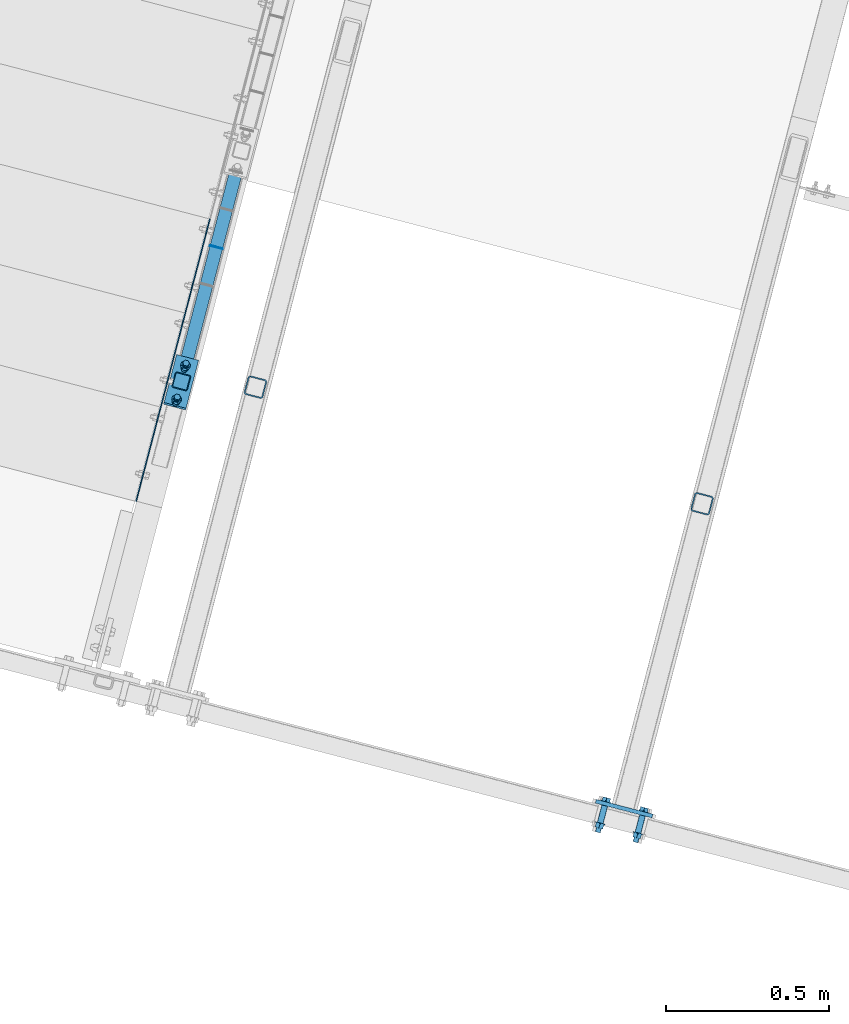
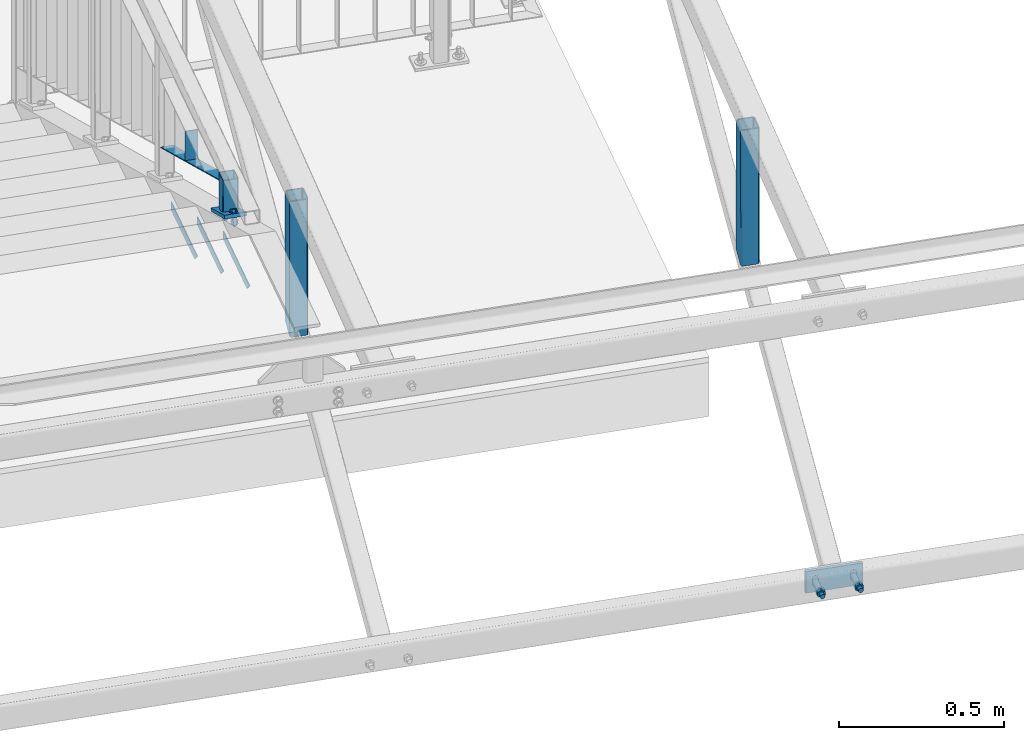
# One storey, part 89 of 169: 10 discrete accessories, 2 mechanical fasteners, 6 elements without a shape of their own.
"""IFC2X3 building model written with IfcOpenShell, lengths in millimetres."""

import ifcopenshell
import ifcopenshell.guid

model = None  # the IFC model being written
_history = None  # IfcOwnerHistory: only IFC2X3 demands one
_inside = {}  # id of a spatial element -> (the spatial element, [elements in it])
_under = {}  # id of a project, library or spatial element -> (it, [spatial elements below it])
_declared = {}  # id of a project -> (the project, [libraries it declares])
_typed = {}  # id of a type object -> (the type object, [elements of that type])
_made_of = {}  # id of a material, layer set ... -> (it, [elements and type objects made of it])


def new_model(schema):
    """Start an empty IFC model of exactly this schema.

    Asked for "IFC4X3", IfcOpenShell would pick the latest addendum, in which some entities
    have other attributes; the version numbers below select the first issue.
    IFC2X3 requires an IfcOwnerHistory on every rooted entity: one is made here for all.
    """
    global model, _history
    if schema == "IFC4X3":
        model = ifcopenshell.file(schema_version=(4, 3, 0, 0))
    else:
        model = ifcopenshell.file(schema=schema)
    _inside.clear()
    _under.clear()
    _declared.clear()
    _typed.clear()
    _made_of.clear()
    _history = None
    if model.schema == "IFC2X3":
        org = make("IfcOrganization", Name="unknown")
        user = make(
            "IfcPersonAndOrganization",
            ThePerson=make("IfcPerson", FamilyName="unknown"),
            TheOrganization=org,
        )
        app = make(
            "IfcApplication",
            ApplicationDeveloper=org,
            Version="unknown",
            ApplicationFullName="unknown",
            ApplicationIdentifier="unknown",
        )
        _history = make(
            "IfcOwnerHistory",
            OwningUser=user,
            OwningApplication=app,
            ChangeAction="ADDED",
            CreationDate=0,
        )
    return model


def make(cls, **values):
    """One entity of the class cls with the attributes given. An attribute that is None is left unset."""
    return model.create_entity(
        cls, **{name: value for name, value in values.items() if value is not None}
    )


def rooted(cls, **values):
    """An entity with a GlobalId (a new one), such as an element, a storey or a relation."""
    return make(cls, GlobalId=ifcopenshell.guid.new(), OwnerHistory=_history, **values)


def si_unit(unit_type, name, prefix=None):
    """IfcSIUnit, for example si_unit("LENGTHUNIT", "METRE", prefix="MILLI")."""
    return make("IfcSIUnit", UnitType=unit_type, Prefix=prefix, Name=name)


def assignment(units):
    """IfcUnitAssignment: the units of a project."""
    return None if units is None else make("IfcUnitAssignment", Units=units)


def point(xyz):
    """IfcCartesianPoint."""
    return None if xyz is None else make("IfcCartesianPoint", Coordinates=xyz)


def direction(xyz):
    """IfcDirection."""
    return None if xyz is None else make("IfcDirection", DirectionRatios=xyz)


def frame(location, z_axis=None, x_axis=None):
    """IfcAxis2Placement3D, a coordinate frame: its origin and axes. An axis left out is left unset."""
    return make(
        "IfcAxis2Placement3D",
        Location=point(location),
        Axis=direction(z_axis),
        RefDirection=direction(x_axis),
    )


def frame_2d(location, x_axis=None):
    """IfcAxis2Placement2D, a coordinate frame in the plane: its origin and x axis."""
    return make(
        "IfcAxis2Placement2D", Location=point(location), RefDirection=direction(x_axis)
    )


def origin_with_axes():
    """The frame at (0, 0, 0) with the z axis (0, 0, 1) and the x axis (1, 0, 0) written out."""
    return frame((0.0, 0.0, 0.0), z_axis=(0.0, 0.0, 1.0), x_axis=(1.0, 0.0, 0.0))


def origin_2d_with_axis():
    """The frame at (0, 0) in the plane with the x axis (1, 0) written out."""
    return frame_2d((0.0, 0.0), x_axis=(1.0, 0.0))


def place(relative_to, where):
    """IfcLocalPlacement: puts the frame where relative to a parent placement (None: the world)."""
    return make(
        "IfcLocalPlacement", PlacementRelTo=relative_to, RelativePlacement=where
    )


def context(
    kind, dimensions, precision=None, world=None, true_north=None, identifier=None
):
    """IfcGeometricRepresentationContext, for example the 3D "Model" context."""
    return make(
        "IfcGeometricRepresentationContext",
        ContextIdentifier=identifier,
        ContextType=kind,
        CoordinateSpaceDimension=dimensions,
        Precision=precision,
        WorldCoordinateSystem=world,
        TrueNorth=true_north,
    )


def subcontext(parent, identifier, kind, view, scale=None):
    """IfcGeometricRepresentationSubContext, for example "Body" below "Model"."""
    return make(
        "IfcGeometricRepresentationSubContext",
        ContextIdentifier=identifier,
        ContextType=kind,
        ParentContext=parent,
        TargetScale=scale,
        TargetView=view,
    )


def project(units=None, contexts=None):
    """IfcProject with its units and contexts."""
    return rooted(
        "IfcProject",
        Name="project",
        RepresentationContexts=contexts,
        UnitsInContext=assignment(units),
    )


def spatial(cls, under=None, at=None, **own):
    """A site, building, storey or space (cls), placed at a placement, below another one or the project."""
    s = rooted(cls, ObjectPlacement=at, **own)
    if under is not None:
        _under.setdefault(under.id(), (under, []))[1].append(s)
    return s


def polyline(points):
    """IfcPolyline through the points."""
    return make("IfcPolyline", Points=[point(p) for p in points])


def circle_curve(where, radius):
    """IfcCircle in the frame where."""
    return make("IfcCircle", Position=where, Radius=radius)


def parameter(value):
    """IfcParameterValue: where a trimmed curve begins or ends, as a parameter of its basis curve."""
    return model.create_entity("IfcParameterValue", value)


def trimmed(basis, trim1, trim2, sense, master):
    """IfcTrimmedCurve: the piece of a basis curve between two trims."""
    return make(
        "IfcTrimmedCurve",
        BasisCurve=basis,
        Trim1=trim1,
        Trim2=trim2,
        SenseAgreement=sense,
        MasterRepresentation=master,
    )


def segment(curve, same_sense, transition):
    """IfcCompositeCurveSegment."""
    return make(
        "IfcCompositeCurveSegment",
        Transition=transition,
        SameSense=same_sense,
        ParentCurve=curve,
    )


def composite_curve(segments, self_intersect=None):
    """IfcCompositeCurve: segments joined end to end."""
    return make("IfcCompositeCurve", Segments=segments, SelfIntersect=self_intersect)


def profile(cls, at=None, kind="AREA", **sizes):
    """A parametric profile (cls). Its sizes go by their IFC names, for example OverallWidth=200.0."""
    return make(cls, ProfileType=kind, Position=at, **sizes)


def rectangle(**sizes):
    """IfcRectangleProfileDef."""
    return profile("IfcRectangleProfileDef", **sizes)


def hollow_rectangle(**sizes):
    """IfcRectangleHollowProfileDef."""
    return profile("IfcRectangleHollowProfileDef", **sizes)


def circle(**sizes):
    """IfcCircleProfileDef."""
    return profile("IfcCircleProfileDef", **sizes)


def outline(outer, holes=None, kind="AREA"):
    """IfcArbitraryClosedProfileDef: a profile drawn as a closed curve; with holes, ...WithVoids."""
    if holes is None:
        return make("IfcArbitraryClosedProfileDef", ProfileType=kind, OuterCurve=outer)
    return make(
        "IfcArbitraryProfileDefWithVoids",
        ProfileType=kind,
        OuterCurve=outer,
        InnerCurves=holes,
    )


def extrude(swept, where, along, depth):
    """IfcExtrudedAreaSolid: the profile swept, set in the frame where, extruded along a direction by depth."""
    return make(
        "IfcExtrudedAreaSolid",
        SweptArea=swept,
        Position=where,
        ExtrudedDirection=direction(along),
        Depth=depth,
    )


def boolean(op, a, b):
    """IfcBooleanResult of two solids."""
    return make("IfcBooleanResult", Operator=op, FirstOperand=a, SecondOperand=b)


def clip(a, b, op="DIFFERENCE"):
    """IfcBooleanClippingResult: the solid a cut by the half space b."""
    return make(
        "IfcBooleanClippingResult", Operator=op, FirstOperand=a, SecondOperand=b
    )


def halfspace(plane, agree):
    """IfcHalfSpaceSolid: all space on one side of the plane z = 0 of the frame plane."""
    return make(
        "IfcHalfSpaceSolid",
        BaseSurface=make("IfcPlane", Position=plane),
        AgreementFlag=agree,
    )


def shape(context_of_items, identifier, shape_type, items):
    """IfcShapeRepresentation: the items that make up one representation, for example the "Body"."""
    return make(
        "IfcShapeRepresentation",
        ContextOfItems=context_of_items,
        RepresentationIdentifier=identifier,
        RepresentationType=shape_type,
        Items=items,
    )


def source(mapping_origin, context_of_items, identifier, shape_type, items):
    """IfcRepresentationMap: a shape defined once, which mapped items show again and again."""
    return make(
        "IfcRepresentationMap",
        MappingOrigin=mapping_origin,
        MappedRepresentation=shape(context_of_items, identifier, shape_type, items),
    )


def transform(
    local_origin,
    x_axis=None,
    y_axis=None,
    z_axis=None,
    scale=None,
    scale2=None,
    scale3=None,
    uniform=True,
):
    """IfcCartesianTransformationOperator3D, or its non-uniform kind. x_axis, y_axis, z_axis: its Axis1, 2, 3."""
    if uniform:
        return make(
            "IfcCartesianTransformationOperator3D",
            Axis1=direction(x_axis),
            Axis2=direction(y_axis),
            LocalOrigin=point(local_origin),
            Scale=scale,
            Axis3=direction(z_axis),
        )
    return make(
        "IfcCartesianTransformationOperator3DnonUniform",
        Axis1=direction(x_axis),
        Axis2=direction(y_axis),
        LocalOrigin=point(local_origin),
        Scale=scale,
        Axis3=direction(z_axis),
        Scale2=scale2,
        Scale3=scale3,
    )


def mapped(mapping_source, mapping_target):
    """IfcMappedItem: shows the shape of a source again, moved by a transform."""
    return make(
        "IfcMappedItem", MappingSource=mapping_source, MappingTarget=mapping_target
    )


def material(Name=None, Category=None):
    """IfcMaterial."""
    return make("IfcMaterial", Name=Name, Category=Category)


def made_of(thing, what):
    """Note that an element or type object is made of a material, layer set ...; save() writes the relation."""
    if what is not None:
        _made_of.setdefault(what.id(), (what, []))[1].append(thing)
    return thing


def type_object(cls, material=None, **own):
    """A type object (cls), such as IfcWallType, which elements share."""
    return made_of(rooted(cls, **own), material)


def element(
    cls,
    number,
    at=None,
    inside=None,
    cuts=None,
    type_object=None,
    material=None,
    context=None,
    identifier="Body",
    shape_type=None,
    held_by="IfcProductDefinitionShape",
    body=None,
    shapes=None,
    **own,
):
    """One element of the class cls, such as IfcWall. Its Tag is "e" and its number.

    at: its placement. inside: the storey or other place that contains it. cuts: it is an
    opening in that element (IfcRelVoidsElement). A single representation is given by context,
    identifier, shape_type and body (its items); several are given by shapes. held_by: the class
    of the entity that holds the representations. save() writes the other relations.
    """
    e = rooted(cls, Tag="e%d" % number, ObjectPlacement=at, **own)
    if body is not None:
        shapes = [shape(context, identifier, shape_type, body)]
    if shapes is not None:
        e.Representation = make(held_by, Representations=shapes)
    if inside is not None:
        _inside.setdefault(inside.id(), (inside, []))[1].append(e)
    if cuts is not None:
        rooted(
            "IfcRelVoidsElement", RelatingBuildingElement=cuts, RelatedOpeningElement=e
        )
    if type_object is not None:
        _typed.setdefault(type_object.id(), (type_object, []))[1].append(e)
    return made_of(e, material)


def aggregate(whole, parts):
    """IfcRelAggregates: a whole, such as a stair, and the parts it consists of."""
    return rooted("IfcRelAggregates", RelatingObject=whole, RelatedObjects=parts)


def save(model, path):
    """Write the relations noted so far, then the file.

    IfcRelAggregates (storeys below a building ...), IfcRelContainedInSpatialStructure (elements
    in a storey), IfcRelDefinesByType, IfcRelAssociatesMaterial and IfcRelDeclares: one each for
    every whole, place, type object, material and project.
    """
    for whole, parts in _under.values():
        aggregate(whole, parts)
    for where, things in _inside.values():
        rooted(
            "IfcRelContainedInSpatialStructure",
            RelatedElements=things,
            RelatingStructure=where,
        )
    for kind, things in _typed.values():
        rooted("IfcRelDefinesByType", RelatedObjects=things, RelatingType=kind)
    for what, things in _made_of.values():
        rooted("IfcRelAssociatesMaterial", RelatedObjects=things, RelatingMaterial=what)
    for by, libraries in _declared.values():
        rooted("IfcRelDeclares", RelatingContext=by, RelatedDefinitions=libraries)
    model.write(path)


model = new_model("IFC2X3")

# Units and contexts
model_context = context("Model", 3, precision=1e-05, world=origin_with_axes())
body_context = subcontext(model_context, "Body", "Model", "MODEL_VIEW")
ifc_project = project(units=[si_unit("LENGTHUNIT", "METRE", prefix="MILLI"), si_unit("AREAUNIT", "SQUARE_METRE"), si_unit("VOLUMEUNIT", "CUBIC_METRE"), si_unit("MASSUNIT", "GRAM", prefix="KILO"), si_unit("TIMEUNIT", "SECOND"), si_unit("PLANEANGLEUNIT", "RADIAN"), si_unit("SOLIDANGLEUNIT", "STERADIAN"), si_unit("THERMODYNAMICTEMPERATUREUNIT", "DEGREE_CELSIUS"), si_unit("LUMINOUSINTENSITYUNIT", "LUMEN")], contexts=[model_context])

# Site, building, storey
site_placement = place(None, origin_with_axes())
site = spatial("IfcSite", under=ifc_project, at=site_placement, Name="Undefined", CompositionType="ELEMENT")
building_placement = place(site_placement, origin_with_axes())
building = spatial("IfcBuilding", under=site, at=building_placement, Name="Undefined", CompositionType="ELEMENT")
storey_placement = place(building_placement, origin_with_axes())
storey = spatial("IfcBuildingStorey", under=building, at=storey_placement, Name="Undefined", CompositionType="ELEMENT", Elevation=0.0)

# Assembly, discrete accessory
assembly_1_placement = place(storey_placement, origin_with_axes())
assembly_1 = element("IfcElementAssembly", 1, at=assembly_1_placement, inside=storey, Name="Steel Assembly", AssemblyPlace="NOTDEFINED", PredefinedType="RIGID_FRAME")
ifc_material_1 = material(Name="STEEL/S235")
discrete_accessory_type_1 = type_object("IfcDiscreteAccessoryType", Name="BLACHA")
discrete_accessory_1_placement = place(assembly_1_placement, frame((-9201.38320013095, 18626.8061625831, 13856.5260371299), z_axis=(0.111692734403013, 0.427781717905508, 0.896954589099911), x_axis=(-0.967563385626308, 0.252628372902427, -1.72000000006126e-07)))
discrete_accessory_1 = element("IfcDiscreteAccessory", 2, at=discrete_accessory_1_placement, type_object=discrete_accessory_type_1, material=ifc_material_1, Name="BLACHA", ObjectType="BL12*170", context=body_context, shape_type="SweptSolid", body=[
    extrude(outline(polyline([(70.0000000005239, 84.9999999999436), (70.0000000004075, -84.9999999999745), (-5.82076609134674e-11, -84.99999999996), (5.82076609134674e-11, 84.99999999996), (70.0000000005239, 84.9999999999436)])), frame((-1.81898942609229e-12, -1.81898940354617e-12, -5.99999999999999), z_axis=(0.0, 0.0, 1.0), x_axis=(1.0, 0.0, 0.0)), (0.0, 0.0, 1.0), 12.0),
])

# Assembly, discrete accessories
assembly_2_placement = place(storey_placement, origin_with_axes())
assembly_2 = element("IfcElementAssembly", 3, at=assembly_2_placement, inside=storey, Name="Steel Assembly", AssemblyPlace="NOTDEFINED", PredefinedType="RIGID_FRAME")
discrete_accessory_2_placement = place(assembly_2_placement, frame((-7872.4268280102, 17323.9317927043, 12861.1891737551), z_axis=(0.252628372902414, 0.967563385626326, 0.0), x_axis=(-2.54700353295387e-10, 0.0, -1.0)))
discrete_accessory_2 = element("IfcDiscreteAccessory", 4, at=discrete_accessory_2_placement, type_object=discrete_accessory_type_1, material=ifc_material_1, Name="BLACHA", ObjectType="BL12*180", context=body_context, shape_type="SweptSolid", body=[
    extrude(outline(polyline([(80.0000000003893, 89.9999999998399), (80.0000000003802, -89.9999999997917), (6.18456397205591e-11, -90.0), (-6.3664629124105e-11, 90.0000000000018), (80.0000000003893, 89.9999999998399)])), frame((-1.81898942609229e-12, -1.81898940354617e-12, -5.99999999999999), z_axis=(0.0, 0.0, 1.0), x_axis=(1.0, 0.0, 0.0)), (0.0, 0.0, 1.0), 12.0),
])
discrete_accessory_type_2 = type_object("IfcDiscreteAccessoryType", Name="BEAM")
discrete_accessory_3_placement = place(assembly_2_placement, frame((-7632.60566342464, 18261.8726468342, 13879.1753071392), z_axis=(0.252628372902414, 0.967563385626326, 0.0), x_axis=(-2.54700353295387e-10, 0.0, -1.0)))
discrete_accessory_3 = element("IfcDiscreteAccessory", 5, at=discrete_accessory_3_placement, type_object=discrete_accessory_type_2, material=ifc_material_1, Name="BEAM", ObjectType="SHS60*4", context=body_context, shape_type="Clipping", body=[
    clip(clip(extrude(hollow_rectangle(XDim=60.0, YDim=60.0, WallThickness=4.0, InnerFilletRadius=4.0, OuterFilletRadius=8.0, at=origin_2d_with_axis()), frame((536.447056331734, 0.0, 0.0), z_axis=(-1.0, -3.46944695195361e-18, -1.38777878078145e-17), x_axis=(1.73472347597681e-18, -1.0, 0.0)), (0.0, 0.0, 1.0), 523.83), halfspace(frame((61.5292129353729, 0.000644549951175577, 871.462888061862), z_axis=(-0.885407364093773, 2.14840959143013e-05, -0.464815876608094), x_axis=(-1.9022240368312e-05, -0.999999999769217, -9.98602767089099e-06)), True)), halfspace(frame((-20.0003003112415, 1.08811946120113e-08, 1000.74984162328), z_axis=(0.998752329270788, -1.61183526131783e-08, 0.0499378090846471), x_axis=(0.0, 1.0, 0.0)), True)),
])

# Assembly, discrete accessory
assembly_3_placement = place(storey_placement, origin_with_axes())
assembly_3 = element("IfcElementAssembly", 6, at=assembly_3_placement, inside=storey, Name="Steel Assembly", AssemblyPlace="NOTDEFINED", PredefinedType="RIGID_FRAME")
discrete_accessory_4_placement = place(assembly_3_placement, frame((-9006.54567101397, 18620.6049363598, 13879.1753071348), z_axis=(0.252628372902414, 0.967563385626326, 0.0), x_axis=(-2.54700353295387e-10, 0.0, -1.0)))
discrete_accessory_4 = element("IfcDiscreteAccessory", 7, at=discrete_accessory_4_placement, type_object=discrete_accessory_type_2, material=ifc_material_1, Name="BEAM", ObjectType="SHS60*4", context=body_context, shape_type="Clipping", body=[
    clip(clip(extrude(hollow_rectangle(XDim=60.0, YDim=60.0, WallThickness=4.0, InnerFilletRadius=4.0, OuterFilletRadius=8.0, at=origin_2d_with_axis()), frame((536.447056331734, 0.0, 0.0), z_axis=(-1.0, -3.46944695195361e-18, -1.38777878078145e-17), x_axis=(1.73472347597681e-18, -1.0, 0.0)), (0.0, 0.0, 1.0), 523.83), halfspace(frame((61.5292129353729, 0.000644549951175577, 871.462888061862), z_axis=(-0.885407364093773, 2.14840959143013e-05, -0.464815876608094), x_axis=(-1.9022240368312e-05, -0.999999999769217, -9.98602767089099e-06)), True)), halfspace(frame((-20.0003003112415, 1.08811946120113e-08, 1000.74984162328), z_axis=(0.998752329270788, -1.61183526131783e-08, 0.0499378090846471), x_axis=(0.0, 1.0, 0.0)), True)),
])
aggregate(assembly_3, [discrete_accessory_4])

# Discrete accessory
discrete_accessory_type_3 = type_object("IfcDiscreteAccessoryType", Name="PORĘCZ")
discrete_accessory_5_placement = place(assembly_1_placement, frame((-9126.79003029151, 19051.0404586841, 13906.1544596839), z_axis=(-0.252628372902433, -0.967563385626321, 0.0), x_axis=(-2.54700353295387e-10, 0.0, -1.0)))
discrete_accessory_5 = element("IfcDiscreteAccessory", 8, at=discrete_accessory_5_placement, type_object=discrete_accessory_type_3, material=ifc_material_1, Name="PORĘCZ", ObjectType="BL40*3", context=body_context, shape_type="Clipping", body=[
    clip(clip(extrude(outline(polyline([(146.326238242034, -19.9999999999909), (37.2368519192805, -19.9999999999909), (37.2368519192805, 19.9999999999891), (146.326238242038, 19.9999999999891), (146.326238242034, -19.9999999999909)])), frame((1.81898940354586e-12, -1.77635442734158e-15, -1.50000000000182), z_axis=(0.0, 0.0, 1.0), x_axis=(1.0, 0.0, 0.0)), (0.0, 0.0, 1.0), 3.0), halfspace(frame((37.2368519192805, 999.999999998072, 1.26674422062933e-08), z_axis=(1.0, 0.0, 0.0), x_axis=(-2.54700353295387e-10, 0.0, -1.0)), True)), halfspace(frame((146.655722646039, 999.999999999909, -0.665521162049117), z_axis=(-0.89618489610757, 8.07050632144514e-16, -0.443680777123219), x_axis=(-0.443680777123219, 6.25441316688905e-11, 0.89618489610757)), True)),
])

discrete_accessory_6_placement = place(assembly_1_placement, frame((-9234.57776220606, 18638.2148460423, 13969.3866981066), z_axis=(0.967563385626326, -0.252628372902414, 0.0), x_axis=(0.226401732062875, 0.867115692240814, -0.443680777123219)))
discrete_accessory_6 = element("IfcDiscreteAccessory", 9, at=discrete_accessory_6_placement, type_object=discrete_accessory_type_3, material=ifc_material_1, Name="PORĘCZ", ObjectType="BL40*3", context=body_context, shape_type="CSG", body=[
    boolean("DIFFERENCE", boolean("DIFFERENCE", extrude(rectangle(XDim=3.0, YDim=40.0, at=origin_2d_with_axis()), frame((818.280219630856, -3.63797880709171e-12, 1.82945031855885e-12), z_axis=(-1.0, -3.46944695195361e-18, -1.38777878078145e-17), x_axis=(1.73472347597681e-18, -1.0, 0.0)), (0.0, 0.0, 1.0), 818.28), extrude(rectangle(XDim=51.0, YDim=51.0, at=origin_2d_with_axis()), frame((-62.1153087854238, 125.465885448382, -3.44399542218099e-09), z_axis=(0.44368077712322, -0.89618489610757, 2.77484007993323e-11), x_axis=(0.896184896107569, 0.443680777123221, 5.60551815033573e-11)), (0.0, 0.0, 1.0), 280.0)), extrude(rectangle(XDim=51.0, YDim=51.0, at=origin_2d_with_axis()), frame((756.164910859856, 125.465885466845, 3.9541654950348e-08), z_axis=(0.44368077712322, -0.89618489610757, 2.77484007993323e-11), x_axis=(0.896184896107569, 0.443680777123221, 5.60551815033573e-11)), (0.0, 0.0, 1.0), 280.0)),
])

discrete_accessory_type_4 = type_object("IfcDiscreteAccessoryType", Name="STANCHION")
discrete_accessory_7_placement = place(assembly_1_placement, frame((-9234.57776222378, 18638.2148459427, 13842.3866981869), z_axis=(0.0, 0.0, 1.0), x_axis=(-0.967563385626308, 0.252628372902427, -1.72000000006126e-07)))
discrete_accessory_7 = element("IfcDiscreteAccessory", 10, at=discrete_accessory_7_placement, type_object=discrete_accessory_type_4, material=ifc_material_1, Name="STANCHION", ObjectType="SHS50*3", context=body_context, shape_type="Clipping", body=[
    clip(clip(extrude(hollow_rectangle(XDim=50.0, YDim=50.0, WallThickness=3.0, InnerFilletRadius=3.0, OuterFilletRadius=6.0, at=origin_2d_with_axis()), frame((0.0, 0.0, 148.03090957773), z_axis=(-2.54700353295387e-10, 0.0, -1.0), x_axis=(0.0, 1.0, 0.0)), (0.0, 0.0, 1.0), 128.51), halfspace(frame((1000.00000000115, 1.43700162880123e-08, 148.03090957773), z_axis=(-2.54700353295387e-10, 0.0, -1.0), x_axis=(0.0, 1.0, 0.0)), True)), halfspace(frame((-24.9999999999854, -7.27595761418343e-12, 19.5210664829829), z_axis=(-8.96961418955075e-10, -0.442122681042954, 0.896954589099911), x_axis=(-4.02729710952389e-10, 0.896954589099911, 0.442122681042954)), True)),
])

# Assembly, discrete accessory
assembly_4_placement = place(storey_placement, origin_with_axes())
assembly_4 = element("IfcElementAssembly", 11, at=assembly_4_placement, inside=storey, Name="Steel Assembly", AssemblyPlace="NOTDEFINED", PredefinedType="RIGID_FRAME")
ifc_material_2 = material(Name="STEEL/S235JR")
discrete_accessory_type_5 = type_object("IfcDiscreteAccessoryType", Name="ANGLE")
discrete_accessory_8_placement = place(assembly_4_placement, frame((-9298.09827040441, 18559.2050464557, 13838.0060245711), z_axis=(-0.967563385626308, 0.252628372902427, -1.72000000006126e-07), x_axis=(-0.252628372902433, -0.967563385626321, 0.0)))
discrete_accessory_8 = element("IfcDiscreteAccessory", 12, at=discrete_accessory_8_placement, type_object=discrete_accessory_type_5, material=ifc_material_2, Name="ANGLE", ObjectType="3*30", context=body_context, shape_type="CSG", body=[
    boolean("DIFFERENCE", extrude(rectangle(XDim=30.0, YDim=3.0, at=origin_2d_with_axis()), frame((300.000000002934, 1.81898940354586e-12, -1.81898940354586e-12), z_axis=(-1.0, -3.46944695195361e-18, -1.38777878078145e-17), x_axis=(1.73472347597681e-18, -1.0, 0.0)), (0.0, 0.0, 1.0), 300.0), extrude(outline(polyline([(0.0, 0.0), (30.0000000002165, -6.73026079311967e-11), (-1.63709046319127e-10, 30.0000000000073), (0.0, 0.0)])), frame((300.000000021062, -15.0000000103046, 4.50000000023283), z_axis=(-2.54700353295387e-10, 0.0, -1.0), x_axis=(-1.0, -3.46944695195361e-18, -1.38777878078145e-17)), (0.0, 0.0, 1.0), 9.0)),
])
aggregate(assembly_4, [discrete_accessory_8])

assembly_5_placement = place(storey_placement, origin_with_axes())
assembly_5 = element("IfcElementAssembly", 13, at=assembly_5_placement, inside=storey, Name="Steel Assembly", AssemblyPlace="NOTDEFINED", PredefinedType="RIGID_FRAME")
discrete_accessory_9_placement = place(assembly_5_placement, frame((-9222.54706520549, 18848.5651806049, 13690.5944414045), z_axis=(-0.967563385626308, 0.252628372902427, -1.72000000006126e-07), x_axis=(-0.252628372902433, -0.967563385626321, 0.0)))
discrete_accessory_9 = element("IfcDiscreteAccessory", 14, at=discrete_accessory_9_placement, type_object=discrete_accessory_type_5, material=ifc_material_2, Name="ANGLE", ObjectType="3*30", context=body_context, shape_type="CSG", body=[
    boolean("DIFFERENCE", extrude(rectangle(XDim=30.0, YDim=3.0, at=origin_2d_with_axis()), frame((300.000000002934, 1.81898940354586e-12, -1.81898940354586e-12), z_axis=(-1.0, -3.46944695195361e-18, -1.38777878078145e-17), x_axis=(1.73472347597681e-18, -1.0, 0.0)), (0.0, 0.0, 1.0), 300.0), extrude(outline(polyline([(0.0, 0.0), (30.0000000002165, -6.73026079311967e-11), (-1.63709046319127e-10, 30.0000000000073), (0.0, 0.0)])), frame((300.000000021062, -15.0000000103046, 4.50000000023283), z_axis=(-2.54700353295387e-10, 0.0, -1.0), x_axis=(-1.0, -3.46944695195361e-18, -1.38777878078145e-17)), (0.0, 0.0, 1.0), 9.0)),
])
aggregate(assembly_5, [discrete_accessory_9])

assembly_6_placement = place(storey_placement, origin_with_axes())
assembly_6 = element("IfcElementAssembly", 15, at=assembly_6_placement, inside=storey, Name="Steel Assembly", AssemblyPlace="NOTDEFINED", PredefinedType="RIGID_FRAME")
discrete_accessory_10_placement = place(assembly_6_placement, frame((-9146.99586000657, 19137.9253147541, 13543.1828582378), z_axis=(-0.967563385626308, 0.252628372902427, -1.72000000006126e-07), x_axis=(-0.252628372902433, -0.967563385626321, 0.0)))
discrete_accessory_10 = element("IfcDiscreteAccessory", 16, at=discrete_accessory_10_placement, type_object=discrete_accessory_type_5, material=ifc_material_2, Name="ANGLE", ObjectType="3*30", context=body_context, shape_type="CSG", body=[
    boolean("DIFFERENCE", extrude(rectangle(XDim=30.0, YDim=3.0, at=origin_2d_with_axis()), frame((300.000000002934, 1.81898940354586e-12, -1.81898940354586e-12), z_axis=(-1.0, -3.46944695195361e-18, -1.38777878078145e-17), x_axis=(1.73472347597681e-18, -1.0, 0.0)), (0.0, 0.0, 1.0), 300.0), extrude(outline(polyline([(0.0, 0.0), (30.0000000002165, -6.73026079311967e-11), (-1.63709046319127e-10, 30.0000000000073), (0.0, 0.0)])), frame((300.000000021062, -15.0000000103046, 4.50000000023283), z_axis=(-2.54700353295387e-10, 0.0, -1.0), x_axis=(-1.0, -3.46944695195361e-18, -1.38777878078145e-17)), (0.0, 0.0, 1.0), 9.0)),
])
aggregate(assembly_6, [discrete_accessory_10])

# Mechanical fastener
ifc_material_3 = material(Name="Undefined")
discrete_accessory_type_6 = type_object("IfcDiscreteAccessoryType", Name="Bolt assembly")
shared_shape_1 = source(origin_with_axes(), body_context, "Body", "SweptSolid", [
    extrude(outline(composite_curve([segment(polyline([(7.5, 7.5), (7.5, -7.5)]), True, "CONTINUOUS"), segment(trimmed(circle_curve(frame_2d((0.0, -7.5), x_axis=(1.0, 0.0)), 7.5), [parameter(0.0)], [parameter(3.14159265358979)], False, "PARAMETER"), True, "CONTINUOUS"), segment(polyline([(-7.5, -7.5), (-7.5, 7.5)]), True, "CONTINUOUS"), segment(trimmed(circle_curve(frame_2d((0.0, 7.5), x_axis=(-1.0, 0.0)), 7.5), [parameter(0.0)], [parameter(3.14159265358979)], False, "PARAMETER"), True, "DISCONTINUOUS")], self_intersect=False)), frame((0.0, 0.900000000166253, 0.0), z_axis=(0.0, 1.0, 0.0), x_axis=(1.0, 0.0, 0.0)), (0.0, 0.0, 1.0), 11.1),
    extrude(outline(composite_curve([segment(polyline([(-7.5, 7.5), (7.5, 7.5)]), True, "CONTINUOUS"), segment(trimmed(circle_curve(frame_2d((7.5, 0.0), x_axis=(0.0, 1.0)), 7.5), [parameter(0.0)], [parameter(3.14159265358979)], False, "PARAMETER"), True, "CONTINUOUS"), segment(polyline([(7.5, -7.5), (-7.5, -7.5)]), True, "CONTINUOUS"), segment(trimmed(circle_curve(frame_2d((-7.5, 0.0), x_axis=(0.0, -1.0)), 7.5), [parameter(0.0)], [parameter(3.14159265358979)], False, "PARAMETER"), True, "DISCONTINUOUS")], self_intersect=False)), frame((0.0, -11.9000000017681, 0.0), z_axis=(0.0, 1.0, 0.0), x_axis=(1.0, 0.0, 0.0)), (0.0, 0.0, 1.0), 12.0),
    extrude(outline(polyline([(10.39230484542, 0.0), (5.19615242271, 9.00000000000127), (-5.19615242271, 9.00000000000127), (-10.39230484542, 0.0), (-5.19615242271, -9.00000000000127), (5.19615242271, -9.00000000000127), (10.39230484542, 0.0)])), frame((0.0, -22.5000000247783, 0.0), z_axis=(0.0, 1.0, 0.0), x_axis=(1.0, 0.0, 0.0)), (0.0, 0.0, 1.0), 7.5),
    extrude(circle(Radius=6.0, at=origin_2d_with_axis()), frame((0.0, -15.0000000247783, 0.0), z_axis=(0.0, 1.0, 0.0), x_axis=(1.0, 0.0, 0.0)), (0.0, 0.0, 1.0), 45.0),
    extrude(circle(Radius=12.0, at=origin_2d_with_axis()), frame((0.0, -15.0000000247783, 0.0), z_axis=(0.0, 1.0, 0.0), x_axis=(1.0, 0.0, 0.0)), (0.0, 0.0, 1.0), 3.0),
    extrude(circle(Radius=12.0, at=origin_2d_with_axis()), frame((0.0, 12.000000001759, 0.0), z_axis=(0.0, 1.0, 0.0), x_axis=(1.0, 0.0, 0.0)), (0.0, 0.0, 1.0), 3.0),
    extrude(outline(polyline([(10.96965511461, 0.0), (5.484827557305, 9.50000000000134), (-5.484827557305, 9.50000000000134), (-10.96965511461, 0.0), (-5.484827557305, -9.50000000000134), (5.484827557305, -9.50000000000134), (10.96965511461, 0.0)])), frame((0.0, 14.9999935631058, 0.0), z_axis=(0.0, 1.0, 0.0), x_axis=(1.0, 0.0, 0.0)), (0.0, 0.0, 1.0), 10.0),
])
mechanical_fastener_1_placement = place(assembly_1_placement, frame((-9260.10715967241, 18639.3971746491, 13851.1443096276), z_axis=(0.226596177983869, 0.867860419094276, -0.442122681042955), x_axis=(0.967563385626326, -0.252628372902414, 0.0)))
mechanical_fastener_1 = element("IfcMechanicalFastener", 17, at=mechanical_fastener_1_placement, type_object=discrete_accessory_type_6, material=ifc_material_3, Name="Bolt assembly", NominalDiameter=12.0, NominalLength=45.0, context=body_context, shape_type="MappedRepresentation", body=[
    mapped(shared_shape_1, transform((24.9999999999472, 0.0, -60.0000000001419))),
    mapped(shared_shape_1, transform((24.9999999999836, -3.54702933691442e-11, 60.0000000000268))),
])

aggregate(assembly_1, [mechanical_fastener_1, discrete_accessory_1, discrete_accessory_7, discrete_accessory_5, discrete_accessory_6])

shared_shape_2 = source(origin_with_axes(), body_context, "Body", "SweptSolid", [
    extrude(circle(Radius=9.5, at=origin_2d_with_axis()), frame((0.0, 3.40000044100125, 0.0), z_axis=(0.0, 1.0, 0.0), x_axis=(1.0, 0.0, 0.0)), (0.0, 0.0, 1.0), 54.1),
    extrude(outline(composite_curve([segment(polyline([(-10.0, 9.5), (10.0, 9.5)]), True, "CONTINUOUS"), segment(trimmed(circle_curve(frame_2d((10.0, 0.0), x_axis=(0.0, 1.0)), 9.5), [parameter(0.0)], [parameter(3.14159265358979)], False, "PARAMETER"), True, "CONTINUOUS"), segment(polyline([(10.0, -9.5), (-10.0, -9.5)]), True, "CONTINUOUS"), segment(trimmed(circle_curve(frame_2d((-10.0, 0.0), x_axis=(0.0, -1.0)), 9.5), [parameter(0.0)], [parameter(3.14159265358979)], False, "PARAMETER"), True, "DISCONTINUOUS")], self_intersect=False)), frame((0.0, -9.40000000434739, 0.0), z_axis=(0.0, 1.0, 0.0), x_axis=(1.0, 0.0, 0.0)), (0.0, 0.0, 1.0), 12.0),
    extrude(outline(polyline([(13.85640646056, 0.0), (6.92820323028, 12.0000000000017), (-6.92820323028, 12.0000000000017), (-13.85640646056, 0.0), (-6.92820323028, -12.0000000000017), (6.92820323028, -12.0000000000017), (13.85640646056, 0.0)])), frame((0.0, -22.5000000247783, 0.0), z_axis=(0.0, 1.0, 0.0), x_axis=(1.0, 0.0, 0.0)), (0.0, 0.0, 1.0), 10.0),
    extrude(circle(Radius=8.0, at=origin_2d_with_axis()), frame((0.0, -12.5000000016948, 0.0), z_axis=(0.0, 1.0, 0.0), x_axis=(1.0, 0.0, 0.0)), (0.0, 0.0, 1.0), 100.0),
    extrude(circle(Radius=15.0, at=origin_2d_with_axis()), frame((0.0, -12.5000000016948, 0.0), z_axis=(0.0, 1.0, 0.0), x_axis=(1.0, 0.0, 0.0)), (0.0, 0.0, 1.0), 3.0),
    extrude(circle(Radius=15.0, at=origin_2d_with_axis()), frame((0.0, 57.500000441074, 0.0), z_axis=(0.0, 1.0, 0.0), x_axis=(1.0, 0.0, 0.0)), (0.0, 0.0, 1.0), 3.0),
    extrude(outline(polyline([(13.85640646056, 0.0), (6.92820323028, 12.0000000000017), (-6.92820323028, 12.0000000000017), (-13.85640646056, 0.0), (-6.92820323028, -12.0000000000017), (6.92820323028, -12.0000000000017), (13.85640646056, 0.0)])), frame((0.0, 60.500000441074, 0.0), z_axis=(0.0, 1.0, 0.0), x_axis=(1.0, 0.0, 0.0)), (0.0, 0.0, 1.0), 13.0),
])
mechanical_fastener_2_placement = place(assembly_2_placement, frame((-7873.31102731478, 17320.5453208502, 12787.3064648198), z_axis=(0.967563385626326, -0.252628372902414, 0.0), x_axis=(0.0, 0.0, 1.0)))
mechanical_fastener_2 = element("IfcMechanicalFastener", 18, at=mechanical_fastener_2_placement, type_object=discrete_accessory_type_6, material=ifc_material_3, Name="Bolt assembly", NominalDiameter=16.0, NominalLength=100.0, context=body_context, shape_type="MappedRepresentation", body=[
    mapped(shared_shape_2, transform((33.8827095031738, 2.5465851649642e-11, -59.9999999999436))),
    mapped(shared_shape_2, transform((33.8827095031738, -2.72848410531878e-11, 59.9999999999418))),
])

aggregate(assembly_2, [mechanical_fastener_2, discrete_accessory_2, discrete_accessory_3])

save(model, "model.ifc")
